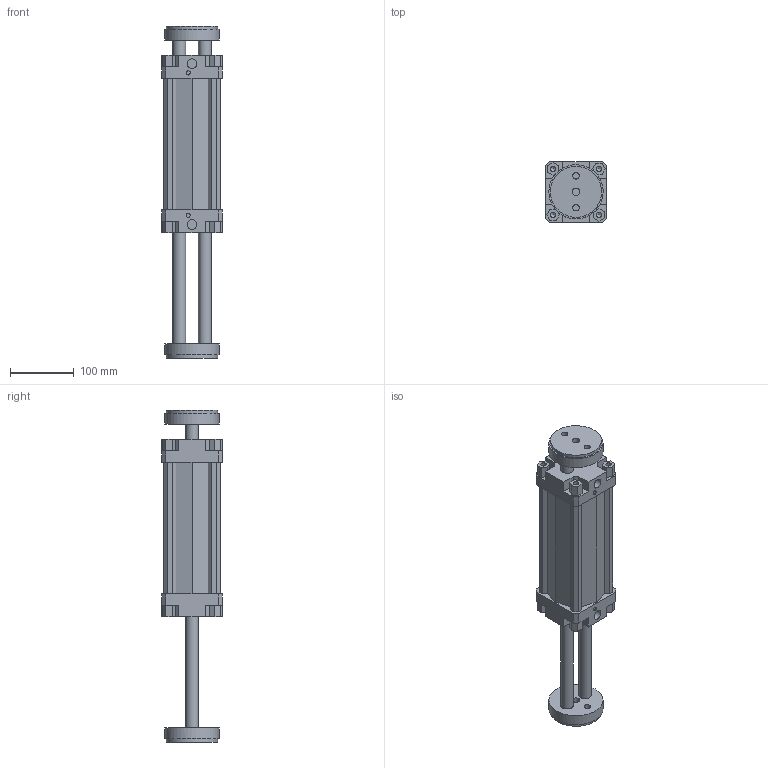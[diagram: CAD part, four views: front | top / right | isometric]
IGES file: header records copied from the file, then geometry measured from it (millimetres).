
Global section: file name: 132#_080_0150_06; native system: Autodesk Inventor 2014; preprocessor: unknown; author: A. Manieri; date: 20161006.162357; units: millimetre
Bounding box: 95 x 95 x 520 mm (x, y, z)
Volume: 1684222.7 mm3; surface area: 318106.6 mm2
Topology: 2 solids, 2 shells, 190 faces, 518 edges, 354 vertices
Faces by surface type: bspline 190
